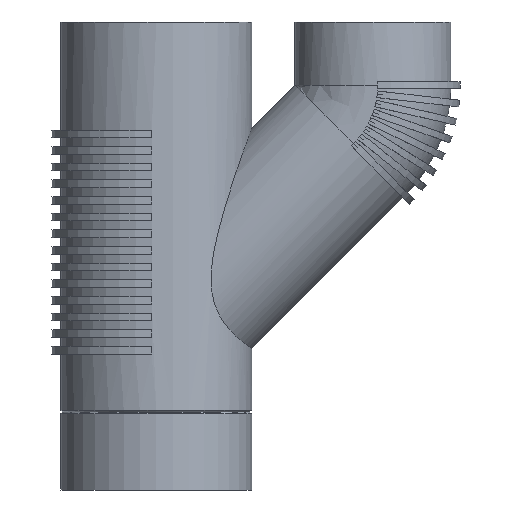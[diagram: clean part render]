
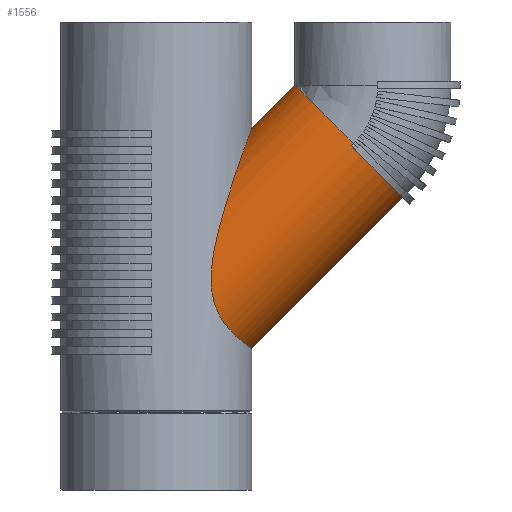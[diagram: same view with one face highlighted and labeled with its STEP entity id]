
A CAD part, front view. The second image highlights one B-rep face of the part: STEP entity #1556.
In plain terms, the highlighted cylindrical face has radius 45 mm (diameter 90 mm), a full revolution.
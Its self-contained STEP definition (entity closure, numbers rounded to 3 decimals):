
#57=B_SPLINE_CURVE_WITH_KNOTS($,3,(#3199,#3200,#3201,#3202,#3203,#3204,
#3205,#3206,#3207,#3208,#3209,#3210,#3211,#3212,#3213,#3214,#3215,#3216,
#3217,#3218,#3219,#3220,#3221,#3222,#3223,#3224,#3225,#3226,#3227,#3228,
#3229,#3230,#3231,#3232,#3233,#3234,#3235,#3236,#3237,#3238,#3239,#3240,
#3241,#3242,#3243,#3244,#3245,#3246,#3247,#3248,#3249,#3250,#3251,#3252,
#3253,#3254,#3255,#3256,#3257,#3258,#3259,#3260,#3261,#3262,#3263,#3264,
#3265,#3266,#3267,#3268,#3269,#3270,#3271,#3272),.UNSPECIFIED.,.T.,.F.,
(4,2,2,2,2,2,2,2,2,2,2,2,2,2,2,2,2,2,2,2,2,2,2,2,2,2,2,2,2,2,2,2,2,2,2,
2,4),(0.,0.924,1.386,1.849,2.773,
3.697,4.569,5.441,6.313,7.184,
8.056,8.928,9.8,10.672,11.596,
12.52,12.982,13.444,14.369,15.97,
17.571,19.308,21.044,22.154,23.263,
23.922,24.251,24.58,24.91,25.239,
25.897,27.007,28.117,29.853,31.589,
33.191,34.792),.UNSPECIFIED.);
#58=LINE($,#2259,#104);
#59=LINE($,#2261,#105);
#104=VECTOR($,#1798,1.925);
#105=VECTOR($,#1799,1.925);
#237=CYLINDRICAL_SURFACE($,#1766,45.);
#256=FACE_BOUND($,#472,.T.);
#366=FACE_OUTER_BOUND($,#471,.T.);
#471=EDGE_LOOP($,(#1294,#1295,#1296,#1297,#1298));
#472=EDGE_LOOP($,(#1299));
#502=CIRCLE($,#1573,45.);
#548=CIRCLE($,#1656,45.);
#549=CIRCLE($,#1657,45.);
#618=VERTEX_POINT($,#2253);
#619=VERTEX_POINT($,#2254);
#620=VERTEX_POINT($,#2258);
#621=VERTEX_POINT($,#2260);
#687=VERTEX_POINT($,#2925);
#750=VERTEX_POINT($,#3198);
#757=EDGE_CURVE($,#618,#619,#502,.T.);
#759=EDGE_CURVE($,#619,#620,#58,.T.);
#760=EDGE_CURVE($,#621,#618,#59,.T.);
#863=EDGE_CURVE($,#687,#620,#548,.T.);
#864=EDGE_CURVE($,#621,#687,#549,.T.);
#956=EDGE_CURVE($,#750,#750,#57,.T.);
#1294=ORIENTED_EDGE($,*,*,#759,.T.);
#1295=ORIENTED_EDGE($,*,*,#863,.F.);
#1296=ORIENTED_EDGE($,*,*,#864,.F.);
#1297=ORIENTED_EDGE($,*,*,#760,.T.);
#1298=ORIENTED_EDGE($,*,*,#757,.T.);
#1299=ORIENTED_EDGE($,*,*,#956,.F.);
#1556=ADVANCED_FACE($,(#366,#256),#237,.T.);
#1573=AXIS2_PLACEMENT_3D($,#2255,#1792,#1793);
#1656=AXIS2_PLACEMENT_3D($,#2927,#1976,#1977);
#1657=AXIS2_PLACEMENT_3D($,#2928,#1978,#1979);
#1766=AXIS2_PLACEMENT_3D($,#3197,#2224,#2225);
#1792=DIRECTION('center_axis',(-0.707,0.,-0.707));
#1793=DIRECTION('ref_axis',(0.707,0.,-0.707));
#1798=DIRECTION($,(0.707,0.,0.707));
#1799=DIRECTION($,(-0.707,0.,-0.707));
#1976=DIRECTION('center_axis',(0.707,0.,0.707));
#1977=DIRECTION('ref_axis',(0.707,0.,-0.707));
#1978=DIRECTION('center_axis',(0.707,0.,0.707));
#1979=DIRECTION('ref_axis',(0.707,0.,-0.707));
#2224=DIRECTION('center_axis',(-0.707,0.,-0.707));
#2225=DIRECTION('ref_axis',(0.707,0.,-0.707));
#2253=CARTESIAN_POINT('',(112.403,44.916,198.514));
#2254=CARTESIAN_POINT('',(112.403,-44.916,198.514));
#2255=CARTESIAN_POINT('Origin',(110.459,0.,200.459));
#2258=CARTESIAN_POINT('',(113.764,-44.916,199.875));
#2259=CARTESIAN_POINT($,(113.764,-44.916,199.875));
#2260=CARTESIAN_POINT('',(113.764,44.916,199.875));
#2261=CARTESIAN_POINT($,(113.764,44.916,199.875));
#2925=CARTESIAN_POINT('',(80.,0.,233.64));
#2927=CARTESIAN_POINT('Origin',(111.82,0.,201.82));
#2928=CARTESIAN_POINT('Origin',(111.82,0.,201.82));
#3197=CARTESIAN_POINT('Origin',(111.82,0.,201.82));
#3198=CARTESIAN_POINT('',(31.623,45.,121.623));
#3199=CARTESIAN_POINT('Ctrl Pts',(31.623,45.,121.623));
#3200=CARTESIAN_POINT('Ctrl Pts',(31.623,45.,118.542));
#3201=CARTESIAN_POINT('Ctrl Pts',(31.855,44.841,115.341));
#3202=CARTESIAN_POINT('Ctrl Pts',(32.725,44.207,110.681));
#3203=CARTESIAN_POINT('Ctrl Pts',(33.1,43.928,109.15));
#3204=CARTESIAN_POINT('Ctrl Pts',(34.021,43.219,106.183));
#3205=CARTESIAN_POINT('Ctrl Pts',(34.566,42.788,104.747));
#3206=CARTESIAN_POINT('Ctrl Pts',(36.412,41.252,100.637));
#3207=CARTESIAN_POINT('Ctrl Pts',(37.936,39.89,98.145));
#3208=CARTESIAN_POINT('Ctrl Pts',(41.155,36.56,93.783));
#3209=CARTESIAN_POINT('Ctrl Pts',(42.841,34.593,91.906));
#3210=CARTESIAN_POINT('Ctrl Pts',(45.872,30.446,88.83));
#3211=CARTESIAN_POINT('Ctrl Pts',(47.326,28.164,87.506));
#3212=CARTESIAN_POINT('Ctrl Pts',(49.958,23.177,85.24));
#3213=CARTESIAN_POINT('Ctrl Pts',(51.135,20.473,84.296));
#3214=CARTESIAN_POINT('Ctrl Pts',(53.05,14.818,82.803));
#3215=CARTESIAN_POINT('Ctrl Pts',(53.79,11.863,82.251));
#3216=CARTESIAN_POINT('Ctrl Pts',(54.765,5.906,81.53));
#3217=CARTESIAN_POINT('Ctrl Pts',(55.,2.906,81.36));
#3218=CARTESIAN_POINT('Ctrl Pts',(55.,-2.906,81.36));
#3219=CARTESIAN_POINT('Ctrl Pts',(54.765,-5.906,81.53));
#3220=CARTESIAN_POINT('Ctrl Pts',(53.79,-11.863,82.251));
#3221=CARTESIAN_POINT('Ctrl Pts',(53.05,-14.818,82.803));
#3222=CARTESIAN_POINT('Ctrl Pts',(51.135,-20.473,84.296));
#3223=CARTESIAN_POINT('Ctrl Pts',(49.958,-23.177,85.24));
#3224=CARTESIAN_POINT('Ctrl Pts',(47.326,-28.164,87.506));
#3225=CARTESIAN_POINT('Ctrl Pts',(45.872,-30.446,88.83));
#3226=CARTESIAN_POINT('Ctrl Pts',(42.841,-34.593,91.906));
#3227=CARTESIAN_POINT('Ctrl Pts',(41.155,-36.56,93.783));
#3228=CARTESIAN_POINT('Ctrl Pts',(37.936,-39.89,98.145));
#3229=CARTESIAN_POINT('Ctrl Pts',(36.412,-41.252,100.637));
#3230=CARTESIAN_POINT('Ctrl Pts',(34.566,-42.788,104.747));
#3231=CARTESIAN_POINT('Ctrl Pts',(34.021,-43.219,106.183));
#3232=CARTESIAN_POINT('Ctrl Pts',(33.1,-43.928,109.15));
#3233=CARTESIAN_POINT('Ctrl Pts',(32.725,-44.207,110.681));
#3234=CARTESIAN_POINT('Ctrl Pts',(31.855,-44.841,115.341));
#3235=CARTESIAN_POINT('Ctrl Pts',(31.623,-45.,118.542));
#3236=CARTESIAN_POINT('Ctrl Pts',(31.623,-45.,126.961));
#3237=CARTESIAN_POINT('Ctrl Pts',(32.318,-44.523,132.719));
#3238=CARTESIAN_POINT('Ctrl Pts',(34.404,-42.931,144.066));
#3239=CARTESIAN_POINT('Ctrl Pts',(35.78,-41.811,149.657));
#3240=CARTESIAN_POINT('Ctrl Pts',(38.605,-39.225,160.103));
#3241=CARTESIAN_POINT('Ctrl Pts',(40.364,-37.466,165.956));
#3242=CARTESIAN_POINT('Ctrl Pts',(43.981,-33.145,177.306));
#3243=CARTESIAN_POINT('Ctrl Pts',(45.834,-30.576,182.802));
#3244=CARTESIAN_POINT('Ctrl Pts',(48.538,-25.95,190.631));
#3245=CARTESIAN_POINT('Ctrl Pts',(49.675,-23.766,193.865));
#3246=CARTESIAN_POINT('Ctrl Pts',(51.779,-18.745,199.774));
#3247=CARTESIAN_POINT('Ctrl Pts',(52.743,-15.901,202.444));
#3248=CARTESIAN_POINT('Ctrl Pts',(53.903,-11.085,205.638));
#3249=CARTESIAN_POINT('Ctrl Pts',(54.307,-8.986,206.746));
#3250=CARTESIAN_POINT('Ctrl Pts',(54.72,-5.654,207.875));
#3251=CARTESIAN_POINT('Ctrl Pts',(54.826,-4.512,208.166));
#3252=CARTESIAN_POINT('Ctrl Pts',(54.966,-2.234,208.548));
#3253=CARTESIAN_POINT('Ctrl Pts',(55.,-1.098,208.64));
#3254=CARTESIAN_POINT('Ctrl Pts',(55.,1.098,208.64));
#3255=CARTESIAN_POINT('Ctrl Pts',(54.966,2.234,208.548));
#3256=CARTESIAN_POINT('Ctrl Pts',(54.826,4.512,208.166));
#3257=CARTESIAN_POINT('Ctrl Pts',(54.72,5.654,207.875));
#3258=CARTESIAN_POINT('Ctrl Pts',(54.307,8.986,206.746));
#3259=CARTESIAN_POINT('Ctrl Pts',(53.903,11.085,205.638));
#3260=CARTESIAN_POINT('Ctrl Pts',(52.743,15.901,202.444));
#3261=CARTESIAN_POINT('Ctrl Pts',(51.779,18.745,199.774));
#3262=CARTESIAN_POINT('Ctrl Pts',(49.675,23.766,193.865));
#3263=CARTESIAN_POINT('Ctrl Pts',(48.538,25.95,190.631));
#3264=CARTESIAN_POINT('Ctrl Pts',(45.834,30.576,182.802));
#3265=CARTESIAN_POINT('Ctrl Pts',(43.981,33.145,177.306));
#3266=CARTESIAN_POINT('Ctrl Pts',(40.364,37.466,165.956));
#3267=CARTESIAN_POINT('Ctrl Pts',(38.605,39.225,160.103));
#3268=CARTESIAN_POINT('Ctrl Pts',(35.78,41.811,149.657));
#3269=CARTESIAN_POINT('Ctrl Pts',(34.404,42.931,144.066));
#3270=CARTESIAN_POINT('Ctrl Pts',(32.318,44.523,132.719));
#3271=CARTESIAN_POINT('Ctrl Pts',(31.623,45.,126.961));
#3272=CARTESIAN_POINT('Ctrl Pts',(31.623,45.,121.623));
